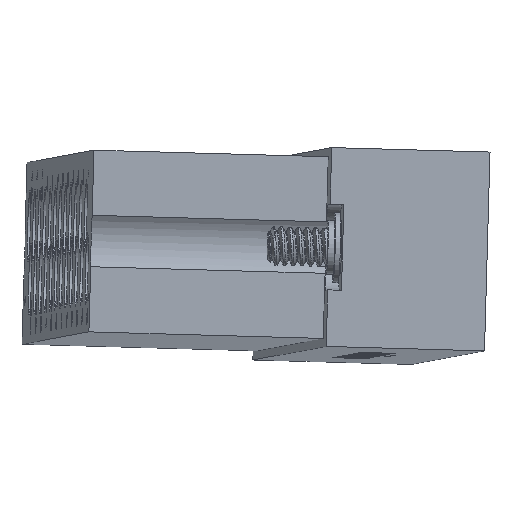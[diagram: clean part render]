
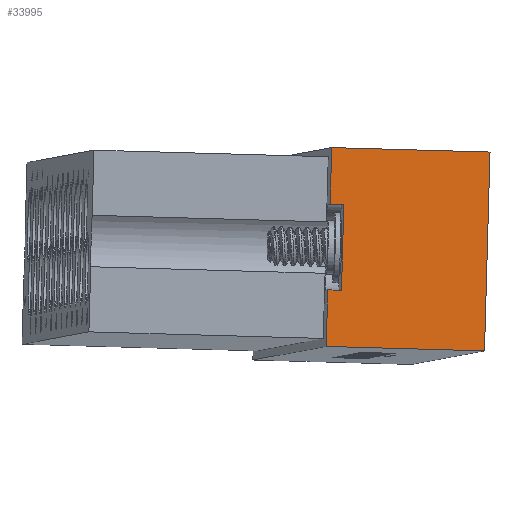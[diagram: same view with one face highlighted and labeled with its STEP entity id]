
A CAD part, top view. The second image highlights one B-rep face of the part: STEP entity #33995.
In plain terms, the highlighted planar face has unit normal (0.037, 0.005, 0.999).
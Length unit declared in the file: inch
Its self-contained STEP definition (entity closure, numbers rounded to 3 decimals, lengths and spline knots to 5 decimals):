
#13297=CARTESIAN_POINT('',(2.49799,1.48265,4.20225));
#13298=VERTEX_POINT('',#13297);
#13313=CARTESIAN_POINT('',(2.95949,1.46971,4.18515));
#13314=VERTEX_POINT('',#13313);
#13321=CARTESIAN_POINT('',(2.49799,1.48265,4.20225));
#13322=DIRECTION('',(0.999,-0.028,-0.037));
#13323=VECTOR('',#13322,0.462);
#13324=LINE('',#13321,#13323);
#13325=EDGE_CURVE('',#13298,#13314,#13324,.T.);
#33729=CARTESIAN_POINT('',(2.54253,1.64646,4.19975));
#33730=VERTEX_POINT('',#33729);
#33738=CARTESIAN_POINT('',(2.50258,1.64758,4.20123));
#33739=VERTEX_POINT('',#33738);
#33746=CARTESIAN_POINT('',(2.54253,1.64646,4.19975));
#33747=DIRECTION('',(-0.999,0.028,0.037));
#33748=VECTOR('',#33747,0.04);
#33749=LINE('',#33746,#33748);
#33750=EDGE_CURVE('',#33730,#33739,#33749,.T.);
#33760=CARTESIAN_POINT('',(2.54948,1.89636,4.19821));
#33761=VERTEX_POINT('',#33760);
#33768=CARTESIAN_POINT('',(2.50953,1.89748,4.19969));
#33769=VERTEX_POINT('',#33768);
#33770=CARTESIAN_POINT('',(2.50953,1.89748,4.19969));
#33771=DIRECTION('',(0.999,-0.028,-0.037));
#33772=VECTOR('',#33771,0.04);
#33773=LINE('',#33770,#33772);
#33774=EDGE_CURVE('',#33769,#33761,#33773,.T.);
#33793=CARTESIAN_POINT('',(2.54948,1.89636,4.19821));
#33794=DIRECTION('',(-0.028,-1.,0.006));
#33795=VECTOR('',#33794,0.25);
#33796=LINE('',#33793,#33795);
#33797=EDGE_CURVE('',#33761,#33730,#33796,.T.);
#33956=CARTESIAN_POINT('',(2.96755,1.75959,4.18337));
#33957=DIRECTION('',(0.037,0.005,0.999));
#33958=DIRECTION('',(-0.028,-1.,0.006));
#33959=AXIS2_PLACEMENT_3D('',#33956,#33957,#33958);
#33960=PLANE('',#33959);
#33961=ORIENTED_EDGE('',*,*,#33774,.T.);
#33962=ORIENTED_EDGE('',*,*,#33797,.T.);
#33963=ORIENTED_EDGE('',*,*,#33750,.T.);
#33964=CARTESIAN_POINT('',(2.50258,1.64758,4.20123));
#33965=DIRECTION('',(-0.028,-1.,0.006));
#33966=VECTOR('',#33965,0.165);
#33967=LINE('',#33964,#33966);
#33968=EDGE_CURVE('',#33739,#13298,#33967,.T.);
#33969=ORIENTED_EDGE('',*,*,#33968,.T.);
#33970=ORIENTED_EDGE('',*,*,#13325,.T.);
#33971=CARTESIAN_POINT('',(2.97562,2.04947,4.18158));
#33972=VERTEX_POINT('',#33971);
#33973=CARTESIAN_POINT('',(2.95949,1.46971,4.18515));
#33974=DIRECTION('',(0.028,1.,-0.006));
#33975=VECTOR('',#33974,0.58);
#33976=LINE('',#33973,#33975);
#33977=EDGE_CURVE('',#13314,#33972,#33976,.T.);
#33978=ORIENTED_EDGE('',*,*,#33977,.T.);
#33979=CARTESIAN_POINT('',(2.51411,2.06241,4.19868));
#33980=VERTEX_POINT('',#33979);
#33981=CARTESIAN_POINT('',(2.97562,2.04947,4.18158));
#33982=DIRECTION('',(-0.999,0.028,0.037));
#33983=VECTOR('',#33982,0.462);
#33984=LINE('',#33981,#33983);
#33985=EDGE_CURVE('',#33972,#33980,#33984,.T.);
#33986=ORIENTED_EDGE('',*,*,#33985,.T.);
#33987=CARTESIAN_POINT('',(2.51411,2.06241,4.19868));
#33988=DIRECTION('',(-0.028,-1.,0.006));
#33989=VECTOR('',#33988,0.165);
#33990=LINE('',#33987,#33989);
#33991=EDGE_CURVE('',#33980,#33769,#33990,.T.);
#33992=ORIENTED_EDGE('',*,*,#33991,.T.);
#33993=EDGE_LOOP('',(#33961,#33962,#33963,#33969,#33970,#33978,#33986,#33992));
#33994=FACE_OUTER_BOUND('',#33993,.T.);
#33995=ADVANCED_FACE('',(#33994),#33960,.T.);
